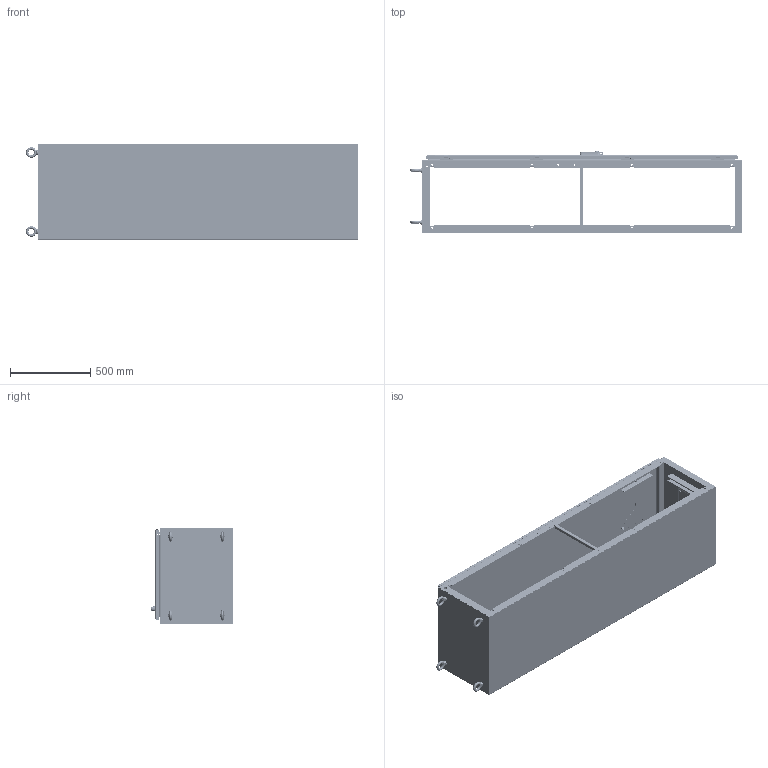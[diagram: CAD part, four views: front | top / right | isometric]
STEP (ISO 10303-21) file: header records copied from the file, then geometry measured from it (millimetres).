
FILE_DESCRIPTION((''),'2;1');
FILE_NAME('MODEL-255_ASM','2021-08-02T10:52:09',('mikek'),('SAGINAW CONTROL & ENGINEERING'),'CREO PARAMETRIC BY PTC INC, 2017260','CREO PARAMETRIC BY PTC INC, 2017260','');
FILE_SCHEMA(('AUTOMOTIVE_DESIGN { 1 0 10303 214 1 1 1 1 }'));
Length unit declared in the file: inch
Products named in the file (61): MODEL-255-R-SD; MODEL-255-L-SD; MODEL-255-TP; MODEL-255-BTM; MODEL-255-DR; 100837; 111267; 100882; 129332-HANDLE-BODY; 129332-HANDLE-SHAFT-O-RING; 129332-HANDLE; 129332-HANDLE-CAP; 129332-HANDLE-SHAFT; 129332-HANDLE-PIN; 129332-HANDLE_ASM; 129332-BODY-CAP; 129332-HANDLE-STOP; 129332-CAM-ADAPTER; 129332-LOCK-NUT; 129332-NUT; 129332_ASM; 102237; 100030; 102237_ASM; MODEL-255-ROD-UPR; 128146; 128145; 128144; 102482; MODEL-255-ROD-UPR_ASM; 128143; 112504; MODEL-255-ROD-LWR; MODEL-255-ROD-LWR_ASM; MODEL-255-GSKT; 128257; 126397; 128257_ASM; 126393; 102483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
Assembly tree (123 placements, depth 5):
  MODEL-255_ASM
    MODEL-255-R-SD
    MODEL-255-L-SD
    MODEL-255-TP
    MODEL-255-BTM
    MODEL-255-DOOR-ASSY_ASM
      MODEL-255-DR
      100837  x5
      111267
      100882  x12
      129332_ASM
        129332-HANDLE-BODY
        129332-HANDLE_ASM
          129332-HANDLE-SHAFT-O-RING
          129332-HANDLE
          129332-HANDLE-CAP
          129332-HANDLE-SHAFT
          129332-HANDLE-PIN
        129332-BODY-CAP
        129332-HANDLE-STOP
        129332-CAM-ADAPTER
        129332-LOCK-NUT
        129332-NUT  x2
      102237_ASM
        102237
        100030  x2
      MODEL-255-ROD-UPR_ASM
        MODEL-255-ROD-UPR
        128146
        128145
        128144
        102482  x2
      128143  x2
      112504  x2
      MODEL-255-ROD-LWR_ASM
        MODEL-255-ROD-LWR
        128146
        128145
        128144
        102482  x2
      MODEL-255-GSKT
      128257_ASM  x4
        128257
        126397
      126393  x4
      102483  x4
      101369_ASM  x4
        101369
        101369-STUD
      101221  x4
    100064  x5
    MODEL-255-EBS  x2
    MODEL-255-B22  x4
    102278  x2
    103300_ASM  x4
      100834
      109064
      114505
    102297
    100882  x8
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Bounding box: 2074.9 x 511.82 x 604.01 mm (x, y, z)
Volume: 12380440.1 mm3; surface area: 9003458.1 mm2
Topology: 128 solids, 128 shells, 12683 faces, 33584 edges, 21099 vertices
Faces by surface type: plane 4309, bspline 3831, cylinder 3199, torus 653, cone 392, sphere 269, extrusion 30
Entity records: 260318 total; most frequent: CARTESIAN_POINT 104949, ORIENTED_EDGE 23866, DIRECTION 21186, PRESENTATION_STYLE_ASSIGNMENT 11974, STYLED_ITEM 11974, EDGE_CURVE 11933, CURVE_STYLE 11921, AXIS2_PLACEMENT_3D 7938
